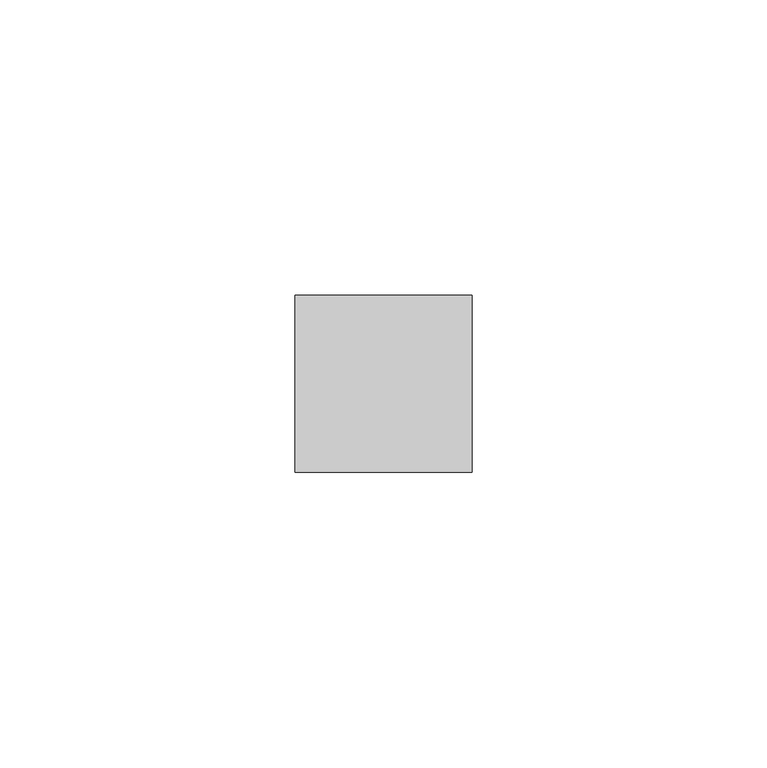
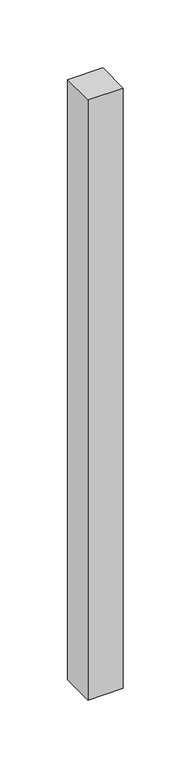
"""IFC4 building model written with IfcOpenShell, lengths in millimetres: member geometry, 矩形竖梃 : 30mm 正方形."""

from ifc_helpers import new_model, si_unit, frame, origin, place, context, project, spatial, polyline, outline, extrude, source, transform, mapped, element, save


def member_90c32fe1(model_context):
    return source(origin(), model_context, "Body", "SweptSolid", [
        extrude(outline(polyline([(15.0, 15.0), (15.0, -15.0), (-15.0, -15.0), (-15.0, 15.0), (15.0, 15.0)])), frame((0.0, 0.0, -540.0), z_axis=(0.0, 0.0, 1.0), x_axis=(1.0, 0.0, 0.0)), (0.0, 0.0, 1.0), 540.0),
    ])


if __name__ == "__main__":
    model = new_model("IFC4")
    model_context = context("Model", 3, world=origin())
    ifc_project = project(units=[si_unit("LENGTHUNIT", "METRE", prefix="MILLI")], contexts=[model_context])
    site = spatial("IfcSite", under=ifc_project)
    building = spatial("IfcBuilding", under=site)
    placement = place(None, origin())
    member_shape = member_90c32fe1(model_context)
    element("IfcMember", 1, ObjectType="矩形竖梃 : 30mm 正方形", at=placement, inside=building, context=model_context, shape_type="MappedRepresentation", body=[
        mapped(member_shape, transform((0.0, 0.0, 0.0), x_axis=(1.0, 0.0, 0.0), y_axis=(0.0, 1.0, 0.0), z_axis=(0.0, 0.0, 1.0))),
    ])
    save(model, "model.ifc")
